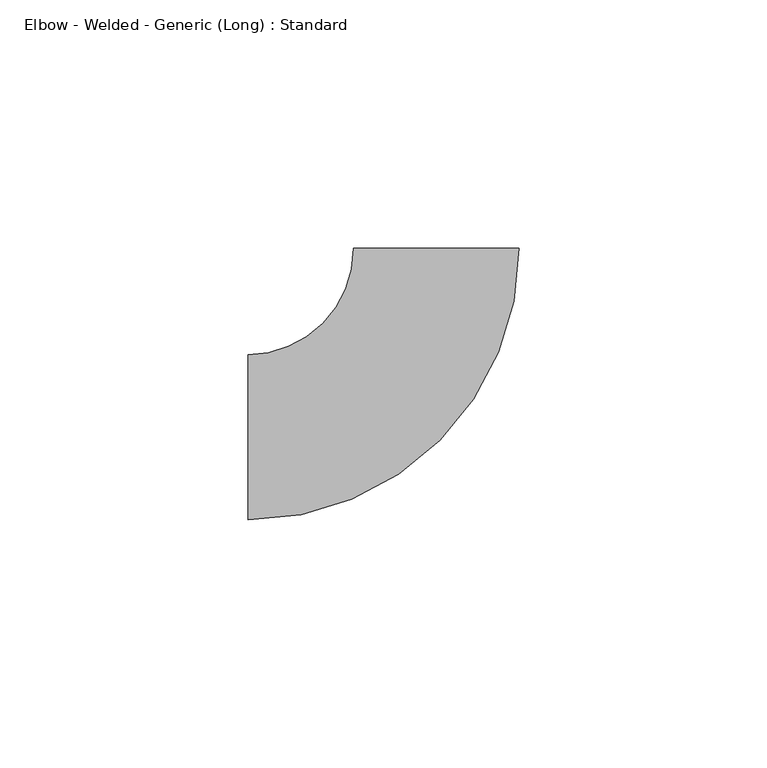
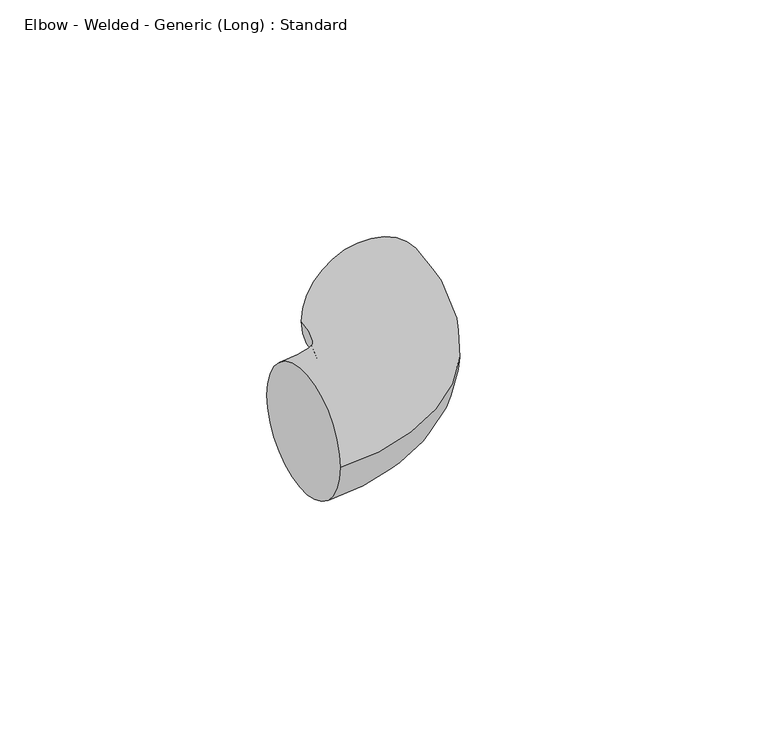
"""IFC4 building model written with IfcOpenShell, lengths in millimetres: pipe fitting geometry, Elbow - Welded - Generic (Long) : Standard."""

from ifc_helpers import new_model, si_unit, point, frame, origin, place, context, project, spatial, circle_curve, ellipse_curve, trimmed, source, transform, mapped, element, save
from ifc_brep_helpers import plane_surface, revolved_surface, advanced_brep


def elbow_welded_generic_long_standard_eb5bc5df(model_context):
    return source(origin(), model_context, "Body", "AdvancedBrep", [
        advanced_brep(
        [(-38.1, -16.66875, 0.0), (-38.1, 16.66875, 0.0), (16.581926, 38.1378678, 0.0), (-16.7554875, 38.0619346, 0.0)],
        [
            (0, 1, circle_curve(frame((-38.1, 0.0, 0.0), z_axis=(-1.0, 0.0, 0.0), x_axis=(0.0, 1.0, 0.0)), 16.66875)),
            (1, 0, circle_curve(frame((-38.1, 0.0, 0.0), z_axis=(-1.0, 0.0, 0.0), x_axis=(0.0, 1.0, 0.0)), 16.66875)),
            (2, 3, circle_curve(frame((-0.0867808, 38.0999012, 0.0), z_axis=(-0.002277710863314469, 0.9999974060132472, 0.0), x_axis=(-0.9999974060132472, -0.002277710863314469, 0.0)), 16.66875)),
            (3, 2, circle_curve(frame((-0.0867808, 38.0999012, 0.0), z_axis=(-0.002277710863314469, 0.9999974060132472, 0.0), x_axis=(-0.9999974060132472, -0.002277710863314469, 0.0)), 16.66875)),
            (3, 1, circle_curve(frame((-38.1, 38.0133178, 0.0), z_axis=(0.0, 0.0, -1.0), x_axis=(0.0, -1.0, 0.0)), 21.3445678)),
            (0, 2, circle_curve(frame((-38.1, 38.0133178, 0.0), z_axis=(0.0, 0.0, 1.0), x_axis=(0.0, -1.0, 0.0)), 54.6820678)),
        ],
        [
            plane_surface(frame((-38.1, 0.0, 0.0), z_axis=(-1.0, 0.0, 0.0), x_axis=(0.0, 0.0, 1.0))),
            plane_surface(frame((-0.0867808, 38.0999012, 0.0), z_axis=(-0.0022777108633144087, 0.9999974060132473, 0.0), x_axis=(0.0, 0.0, 1.0))),
            revolved_surface(trimmed(ellipse_curve(frame((-38.1, 0.0, 0.0), z_axis=(-1.0, 0.0, 0.0), x_axis=(0.0, 1.0, 0.0)), 16.66875, 16.66875), [point((-38.1, -16.66875, 0.0))], [point((-38.1, 16.66875, 0.0))], True, "CARTESIAN"), (-38.1, 38.0133178, 0.0), (0.0, 0.0, 1.0)),
            revolved_surface(trimmed(ellipse_curve(frame((-38.1, 0.0, 0.0), z_axis=(-1.0, 0.0, 0.0), x_axis=(0.0, 1.0, 0.0)), 16.66875, 16.66875), [point((-38.1, 16.66875, 0.0))], [point((-38.1, -16.66875, 0.0))], True, "CARTESIAN"), (-38.1, 38.0133178, 0.0), (0.0, 0.0, 1.0)),
        ],
        [
            (0, [[1, 2]]),
            (1, [[3, 4]]),
            (2, [[5, -1, 6, -4]]),
            (3, [[-6, -2, -5, -3]]),
        ],
    ),
    ])


if __name__ == "__main__":
    model = new_model("IFC4")
    model_context = context("Model", 3, world=origin())
    ifc_project = project(units=[si_unit("LENGTHUNIT", "METRE", prefix="MILLI")], contexts=[model_context])
    site = spatial("IfcSite", under=ifc_project)
    building = spatial("IfcBuilding", under=site)
    placement = place(None, origin())
    elbow_welded_generic_long_standard_shape = elbow_welded_generic_long_standard_eb5bc5df(model_context)
    element("IfcPipeFitting", 1, ObjectType="Elbow - Welded - Generic (Long) : Standard", at=placement, inside=building, context=model_context, shape_type="MappedRepresentation", body=[
        mapped(elbow_welded_generic_long_standard_shape, transform((0.0, 0.0, 0.0), x_axis=(1.0, 0.0, 0.0), y_axis=(0.0, 1.0, 0.0), z_axis=(0.0, 0.0, 1.0))),
    ])
    save(model, "model.ifc")
